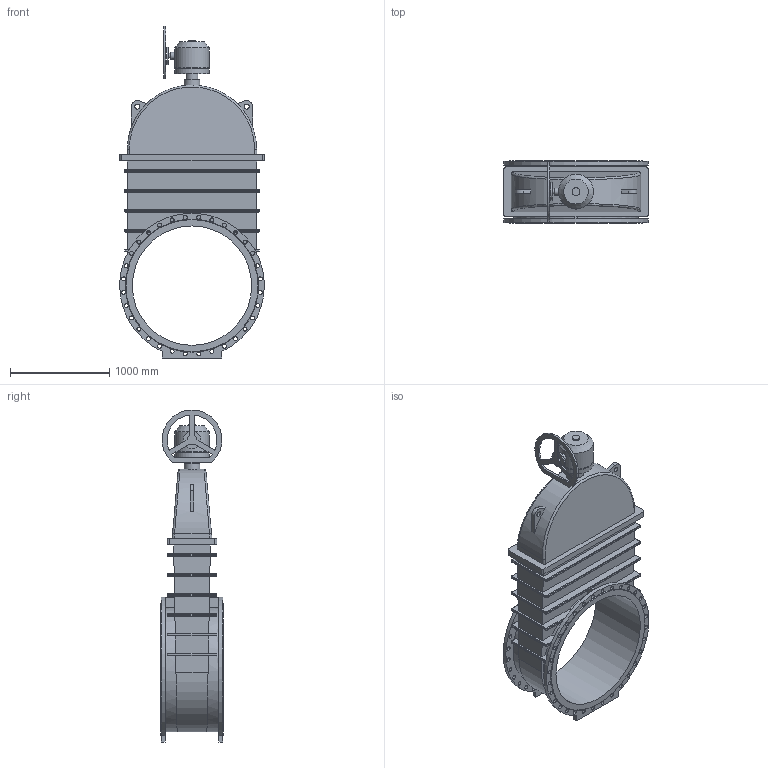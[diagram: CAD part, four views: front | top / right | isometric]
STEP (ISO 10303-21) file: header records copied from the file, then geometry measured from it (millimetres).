
FILE_DESCRIPTION(('STEP AP203'), '1');
FILE_NAME('Çàäâèæêà 47GV.Z DN1200 PN10 + ðåäóêòîð ñ ìàõîâèêîì', '', ('UNSPECIFIED'), ('UNSPECIFIED'), 'ASCON STEP Converter 1.6', 'ASCON Math Kernel', '');
FILE_SCHEMA(('CONFIG_CONTROL_DESIGN'));
Length unit declared in the file: millimetre
Bounding box: 1453.67 x 630 x 3337.5 mm (x, y, z)
Volume: 824420170.7 mm3; surface area: 14941615.9 mm2
Topology: 1 solids, 1 shells, 376 faces, 950 edges, 599 vertices
Faces by surface type: cylinder 181, plane 142, bspline 50, cone 3
Full cylindrical faces by diameter (mm): 30 x1, 40 x64, 50 x3, 70 x1, 80 x1, 100 x1, 120 x1, 160 x1, 175 x1, 330 x1, 350 x2, 1200 x1
Entity records: 19336 total; most frequent: CARTESIAN_POINT 7666, ORIENTED_EDGE 1738, DIRECTION 1658, EDGE_CURVE 869, AXIS2_PLACEMENT_3D 624, EDGE_LOOP 620, VERTEX_POINT 599, FACE_BOUND 459
